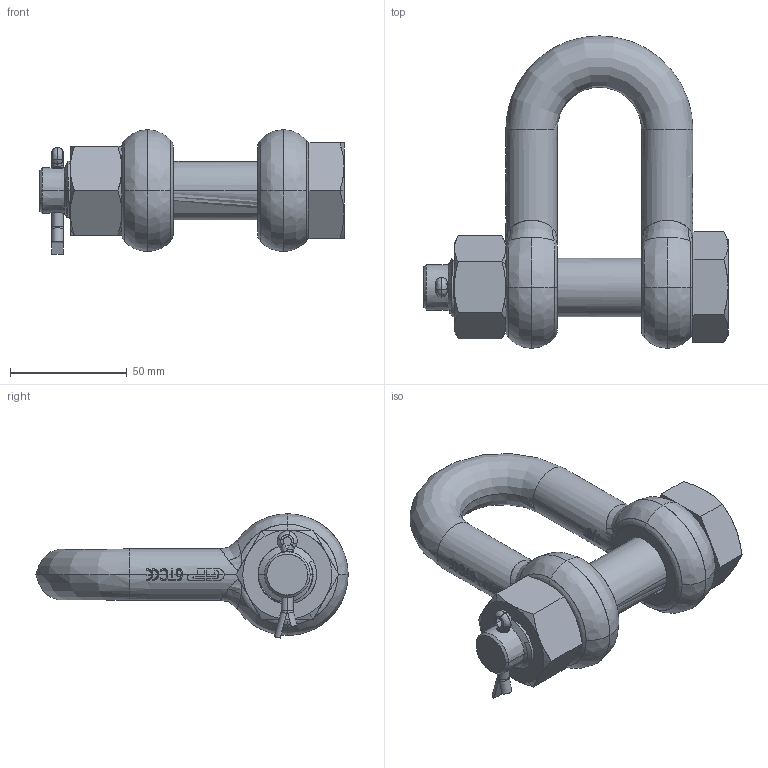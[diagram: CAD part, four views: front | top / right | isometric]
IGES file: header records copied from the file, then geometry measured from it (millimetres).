
Start section: START RECORD GO HERE.
Global section: file name: 6,5.igs; native system: Solidworks 2009      A Version 5 Release 17 ; preprocessor: Solidworks                 ; author: v.b.; organization: P4; date: 20090807.084205; units: millimetre
Bounding box: 130 x 133.5 x 53.17 mm (x, y, z)
Surface area: 49361.3 mm2 (no closed solid volume)
Topology: 0 solids, 0 shells, 698 faces, 4422 edges, 4414 vertices
Faces by surface type: bspline 304, plane 234, revolution 160
